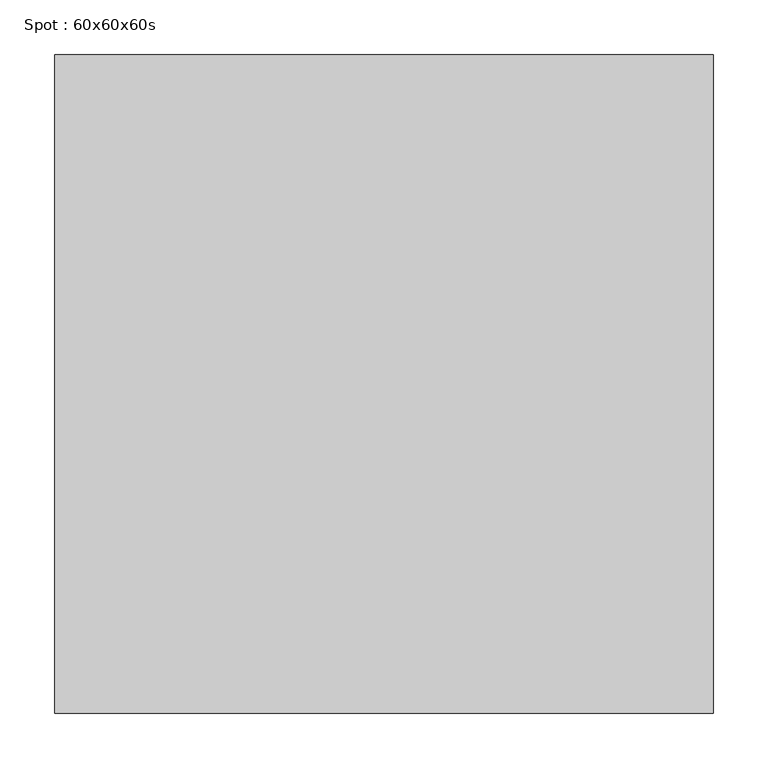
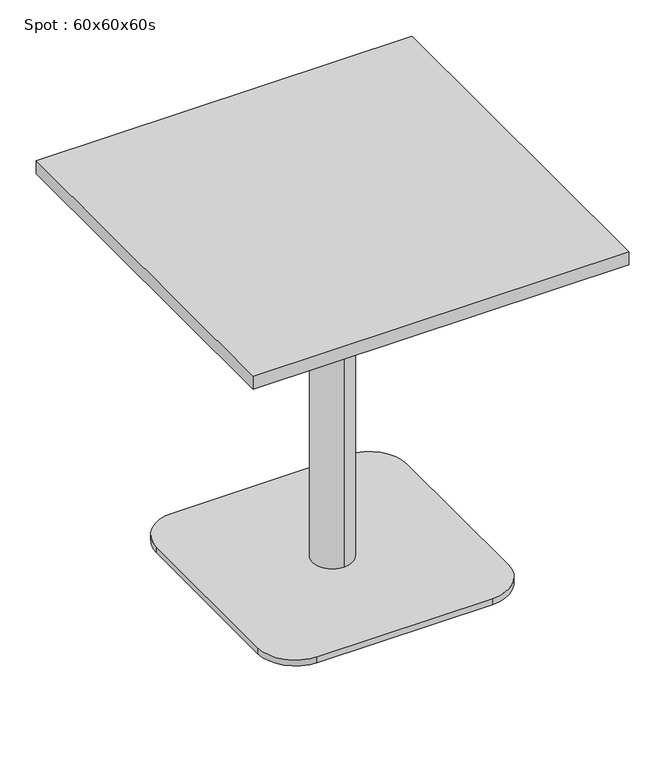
"""IFC4 building model written with IfcOpenShell, lengths in millimetres: furniture geometry, Spot : 60x60x60s."""

from ifc_helpers import new_model, si_unit, point, frame, frame_2d, origin, origin_with_axes, place, context, project, spatial, polyline, circle_curve, trimmed, segment, composite_curve, outline, extrude, source, transform, mapped, element, save
from ifc_brep_helpers import plane_surface, cylinder_surface, revolved_surface, advanced_brep


def spot_60x60x60s_075ac10b(model_context):
    return source(origin(), model_context, "Body", "SolidModel", [
        extrude(outline(polyline([(300.0, 300.0), (300.0, -300.0), (-300.0, -300.0), (-300.0, 300.0), (300.0, 300.0)])), frame((0.0, 0.0, 578.0), z_axis=(0.0, 0.0, 1.0), x_axis=(1.0, 0.0, 0.0)), (0.0, 0.0, 1.0), 22.0),
        extrude(outline(composite_curve([segment(trimmed(circle_curve(frame_2d((140.0, 140.0)), 60.0), [point((140.0, 200.0))], [point((200.0, 140.0))], False, "CARTESIAN"), True, "CONTINUOUS"), segment(polyline([(200.0, 140.0), (200.0, -140.0)]), True, "CONTINUOUS"), segment(trimmed(circle_curve(frame_2d((140.0, -140.0)), 60.0), [point((200.0, -140.0))], [point((140.0, -200.0))], False, "CARTESIAN"), True, "CONTINUOUS"), segment(polyline([(140.0, -200.0), (-140.0, -200.0)]), True, "CONTINUOUS"), segment(trimmed(circle_curve(frame_2d((-140.0, -140.0)), 60.0), [point((-140.0, -200.0))], [point((-200.0, -140.0))], False, "CARTESIAN"), True, "CONTINUOUS"), segment(polyline([(-200.0, -140.0), (-200.0, 140.0)]), True, "CONTINUOUS"), segment(trimmed(circle_curve(frame_2d((-140.0, 140.0)), 60.0), [point((-200.0, 140.0))], [point((-140.0, 200.0))], False, "CARTESIAN"), True, "CONTINUOUS"), segment(polyline([(-140.0, 200.0), (140.0, 200.0)]), True, "CONTINUOUS")], self_intersect=False)), origin_with_axes(), (0.0, 0.0, 1.0), 10.0),
        advanced_brep(
        [(0.0, 32.0, 10.0), (0.0, -32.0, 10.0), (0.0, -32.0, 547.406916), (0.0, 32.0, 547.406916), (0.0, 0.0, 10.0), (0.0, 150.0, 578.0), (0.0, -150.0, 578.0), (0.0, 0.0, 578.0), (0.0, 150.0, 566.7213673), (0.0, -150.0, 566.7213673)],
        [
            (0, 1, circle_curve(frame((0.0, 0.0, 10.0), z_axis=(0.0, 0.0, 1.0), x_axis=(0.0, -1.0, 0.0)), 32.0)),
            (1, 2),
            (2, 3, circle_curve(frame((0.0, 0.0, 547.406916), z_axis=(0.0, 0.0, -1.0), x_axis=(0.0, -1.0, 0.0)), 32.0)),
            (3, 0),
            (1, 0, circle_curve(frame((0.0, 0.0, 10.0), z_axis=(0.0, 0.0, 1.0), x_axis=(0.0, -1.0, 0.0)), 32.0)),
            (3, 2, circle_curve(frame((0.0, 0.0, 547.406916), z_axis=(0.0, 0.0, -1.0), x_axis=(0.0, -1.0, 0.0)), 32.0)),
            (4, 1),
            (0, 4),
            (5, 6, circle_curve(frame((0.0, 0.0, 578.0), z_axis=(0.0, 0.0, 1.0), x_axis=(0.0, -1.0, 0.0)), 150.0)),
            (6, 7),
            (7, 5),
            (6, 5, circle_curve(frame((0.0, 0.0, 578.0), z_axis=(0.0, 0.0, 1.0), x_axis=(0.0, -1.0, 0.0)), 150.0)),
            (8, 9, circle_curve(frame((0.0, 0.0, 566.7213673), z_axis=(0.0, 0.0, 1.0), x_axis=(0.0, -1.0, 0.0)), 150.0)),
            (9, 6),
            (5, 8),
            (9, 8, circle_curve(frame((0.0, 0.0, 566.7213673), z_axis=(0.0, 0.0, 1.0), x_axis=(0.0, -1.0, 0.0)), 150.0)),
            (2, 9),
            (8, 3),
        ],
        [
            cylinder_surface(frame((0.0, 0.0, 940.0), z_axis=(0.0, 0.0, -1.0), x_axis=(0.0, -1.0, 0.0)), 32.0),
            plane_surface(frame((0.0, 0.0, 10.0), z_axis=(0.0, 0.0, -1.0), x_axis=(0.0, -1.0, 0.0))),
            plane_surface(frame((0.0, 0.0, 578.0), z_axis=(0.0, 0.0, 1.0), x_axis=(0.0, -1.0, 0.0))),
            cylinder_surface(frame((0.0, 0.0, 940.0), z_axis=(0.0, 0.0, -1.0), x_axis=(0.0, -1.0, 0.0)), 150.0),
            revolved_surface(polyline([(0.0, -150.0, 566.7213673), (0.0, -32.0, 547.406916)]), (0.0, 0.0, 940.0), (0.0, 0.0, -1.0)),
        ],
        [
            (0, [[1, 2, 3, 4]]),
            (0, [[5, -4, 6, -2]]),
            (1, [[7, -1, 8]]),
            (1, [[-8, -5, -7]]),
            (2, [[9, 10, 11]]),
            (2, [[12, -11, -10]]),
            (3, [[13, 14, -9, 15]]),
            (3, [[16, -15, -12, -14]]),
            (4, [[-3, 17, -13, 18]]),
            (4, [[-6, -18, -16, -17]]),
        ],
    ),
        extrude(outline(polyline([(0.0, 0.0), (-20.0, 0.0), (-20.0, 20.0), (0.0, 20.0), (0.0, 0.0)])), origin_with_axes(), (0.0, 0.0, 1.0), 10.0),
    ])


if __name__ == "__main__":
    model = new_model("IFC4")
    model_context = context("Model", 3, world=origin())
    ifc_project = project(units=[si_unit("LENGTHUNIT", "METRE", prefix="MILLI")], contexts=[model_context])
    site = spatial("IfcSite", under=ifc_project)
    building = spatial("IfcBuilding", under=site)
    placement = place(None, origin())
    spot_60x60x60s_shape = spot_60x60x60s_075ac10b(model_context)
    element("IfcFurniture", 1, ObjectType="Spot : 60x60x60s", at=placement, inside=building, context=model_context, shape_type="MappedRepresentation", body=[
        mapped(spot_60x60x60s_shape, transform((0.0, 0.0, 0.0), x_axis=(1.0, 0.0, 0.0), y_axis=(0.0, 1.0, 0.0), z_axis=(0.0, 0.0, 1.0))),
    ])
    save(model, "model.ifc")
